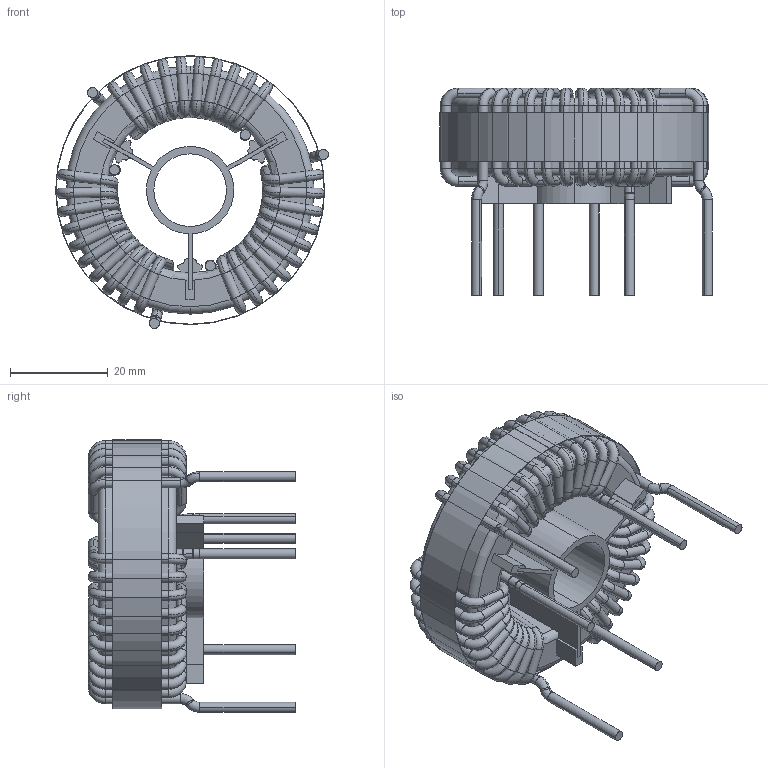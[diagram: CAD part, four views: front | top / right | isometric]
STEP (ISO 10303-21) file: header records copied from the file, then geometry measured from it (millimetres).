
FILE_DESCRIPTION (( 'STEP AP203' ), '1' );
FILE_NAME ('TFR-102U-26A-SW.STEP', '2020-11-11T13:56:24', ( 'Windows User' ), ( '' ), 'SwSTEP 2.0', 'SolidWorks 2015', '' );
FILE_SCHEMA (( 'CONFIG_CONTROL_DESIGN' ));
Length unit declared in the file: inch
Products named in the file (5): TFR-102U-26A-SPACER-SW; TFR-102U-26A-SW; TFR-102U-26A-CORE-SW; TFR-102U-26A-EPOXY-SW; TFR-102U-26A-COIL-SW
Assembly tree (4 placements, depth 2):
  TFR-102U-26A-SW
    TFR-102U-26A-CORE-SW
    TFR-102U-26A-SPACER-SW
    TFR-102U-26A-EPOXY-SW
    TFR-102U-26A-COIL-SW
Bounding box: 55.77 x 42.41 x 55.77 mm (x, y, z)
Volume: 26185.8 mm3; surface area: 25693.2 mm2
Topology: 18 solids, 18 shells, 691 faces, 1939 edges, 1284 vertices
Faces by surface type: cylinder 311, torus 284, plane 90, bspline 6
Entity records: 23908 total; most frequent: DIRECTION 4777, CARTESIAN_POINT 4149, ORIENTED_EDGE 3878, AXIS2_PLACEMENT_3D 2164, EDGE_CURVE 1939, CIRCLE 1472, VERTEX_POINT 1284, EDGE_LOOP 697
